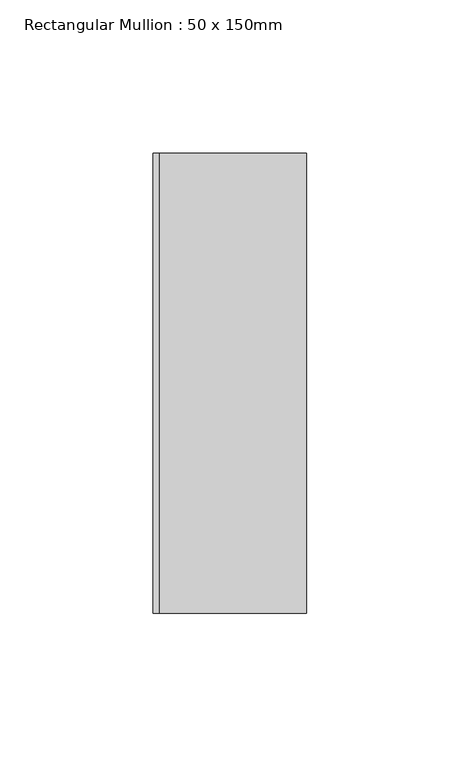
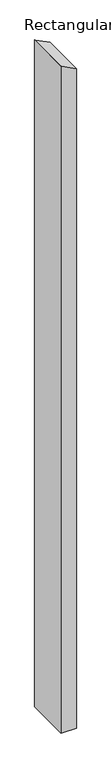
"""IFC4 building model written with IfcOpenShell, lengths in millimetres: member geometry, Rectangular Mullion : 50 x 150mm."""

from ifc_helpers import new_model, si_unit, frame, origin, place, context, project, spatial, polyline, outline, extrude, source, transform, mapped, element, save


def rectangular_mullion_50_x_150mm_f6282f5b(model_context):
    return source(origin(), model_context, "Body", "SweptSolid", [
        extrude(outline(polyline([(-69.2321267, 25.0), (-44.4770658, -22.8432362), (-43.3775837, -25.0), (-2356.5485446, -25.0), (-2356.5485446, 25.0), (-69.2321267, 25.0)])), frame((0.0, -75.0, 0.0), z_axis=(0.0, 1.0, 0.0), x_axis=(0.0, 0.0, 1.0)), (0.0, 0.0, 1.0), 150.0),
    ])


if __name__ == "__main__":
    model = new_model("IFC4")
    model_context = context("Model", 3, world=origin())
    ifc_project = project(units=[si_unit("LENGTHUNIT", "METRE", prefix="MILLI")], contexts=[model_context])
    site = spatial("IfcSite", under=ifc_project)
    building = spatial("IfcBuilding", under=site)
    placement = place(None, origin())
    rectangular_mullion_50_x_150mm_shape = rectangular_mullion_50_x_150mm_f6282f5b(model_context)
    element("IfcMember", 1, ObjectType="Rectangular Mullion : 50 x 150mm", at=placement, inside=building, context=model_context, shape_type="MappedRepresentation", body=[
        mapped(rectangular_mullion_50_x_150mm_shape, transform((0.0, 0.0, 0.0), x_axis=(1.0, 0.0, 0.0), y_axis=(0.0, 1.0, 0.0), z_axis=(0.0, 0.0, 1.0))),
    ])
    save(model, "model.ifc")
